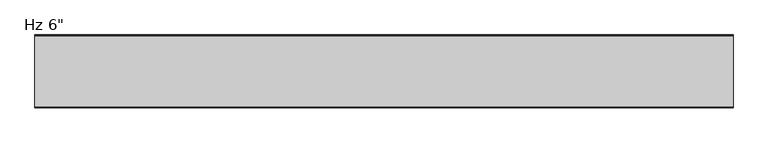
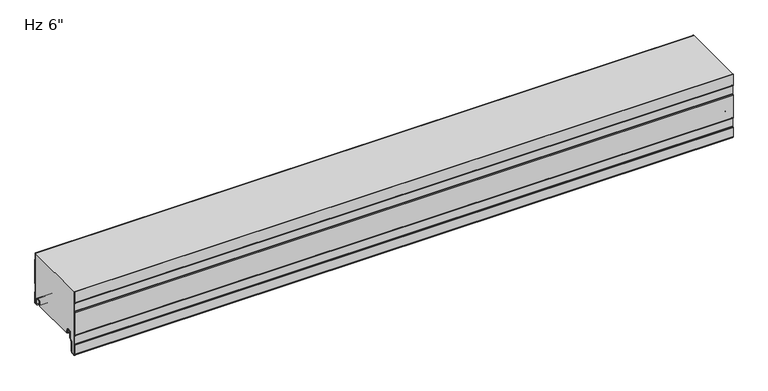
"""IFC4 building model written with IfcOpenShell, lengths in millimetres: plate geometry."""

from ifc_helpers import new_model, si_unit, point, frame, frame_2d, origin, place, context, project, spatial, polyline, circle_curve, trimmed, segment, composite_curve, outline, extrude, source, transform, mapped, element, save
from ifc_brep_helpers import plane_surface, cylinder_surface, revolved_surface, advanced_brep


def plate_5640bb00(model_context):
    return source(origin(), model_context, "Body", "SolidModel", [
        advanced_brep(
        [(-730.0, -17.0015159, 2.0313088), (-730.0, -18.0015191, 1.0313116), (-730.0, -19.0015105, 2.0313088), (-730.0, -19.0015105, 6.0315125), (-730.0, -18.0015159, 6.0315125), (-730.0, -18.0015159, 8.7237223), (-730.0, -14.7015202, 12.023718), (-730.0, -10.301529, 12.023718), (-730.0, -7.0015335, 8.7237225), (-730.0, -7.0015335, -1.6962564), (-730.0, -5.2315393, -3.4662506), (-730.0, -0.9999916, -3.4662506), (-730.0, -0.9999916, 21.034026), (-730.0, -2.2002307, 22.4196686), (-730.0, -2.2002307, 41.7948349), (-730.0, -1.0, 43.1804679), (-730.0, -1.0, 97.2338833), (-730.0, -2.2002307, 98.6195162), (-730.0, -2.2002307, 114.0), (-730.0, -1.2002307, 114.0), (-730.0, -1.2002307, 98.9923967), (-730.0, -0.3417885, 98.001349), (-730.0, 0.0, 97.0847321), (-730.0, 0.0, 43.329619), (-730.0, -0.3417885, 42.4130021), (-730.0, -1.2002307, 41.4219545), (-730.0, -1.2002307, 22.7925491), (-730.0, -0.3417885, 21.8015014), (-730.0, 0.0, 20.8847931), (-730.0, 8.4e-06, -3.0662545), (-730.0, -1.3999878, -4.4662506), (-730.0, -5.2315393, -4.4662506), (-730.0, -8.0015335, -1.6962564), (-730.0, -8.0015335, 8.7237225), (-730.0, -10.301529, 11.023718), (-730.0, -14.7015202, 11.023718), (-730.0, -17.0015159, 8.7237223), (730.0, -17.0015159, 2.0313088), (730.0, -17.0015159, 8.7237223), (730.0, -14.7015202, 11.023718), (730.0, -10.301529, 11.023718), (730.0, -8.0015335, 8.7237225), (730.0, -8.0015335, -1.6962564), (730.0, -5.2315393, -4.4662506), (730.0, -1.3999878, -4.4662506), (730.0, 8.4e-06, -3.0662545), (730.0, 8.4e-06, 20.8848845), (730.0, -0.3417885, 21.8015014), (730.0, -1.2002307, 22.7925491), (730.0, -1.2002307, 41.4219545), (730.0, -0.3417885, 42.4130021), (730.0, 0.0, 43.329619), (730.0, 0.0, 97.0847321), (730.0, -0.3417885, 98.001349), (730.0, -1.2002307, 98.9923967), (730.0, -1.2002307, 114.0), (730.0, -2.2002307, 114.0), (730.0, -2.2002307, 98.6195162), (730.0, -1.0, 97.2338833), (730.0, -1.0, 43.1804679), (730.0, -2.2002307, 41.7948349), (730.0, -2.2002307, 22.4196686), (730.0, -0.9999916, 21.034026), (730.0, -0.9999916, -3.4662506), (730.0, -5.2315393, -3.4662506), (730.0, -7.0015335, -1.6962564), (730.0, -7.0015335, 8.7237225), (730.0, -10.301529, 12.023718), (730.0, -14.7015202, 12.023718), (730.0, -18.0015159, 8.7237223), (730.0, -18.0015159, 6.0315125), (730.0, -19.0015105, 6.0315125), (730.0, -19.0015105, 2.0313088), (730.0, -18.0015192, 1.0313116)],
        [
            (0, 1, circle_curve(frame((-730.0, -18.0015132, 2.0313088), z_axis=(-1.0, 0.0, 0.0), x_axis=(0.0, 0.0, 1.0)), 0.9999973)),
            (1, 2, circle_curve(frame((-730.0, -18.0015133, 2.0313088), z_axis=(-1.0, 0.0, 0.0), x_axis=(0.0, 0.0, 1.0)), 0.9999972)),
            (2, 3),
            (3, 4),
            (4, 5),
            (5, 6, circle_curve(frame((-730.0, -14.7015202, 8.7237223), z_axis=(-1.0, 0.0, 0.0), x_axis=(0.0, 0.0, 1.0)), 3.2999957)),
            (6, 7),
            (7, 8, circle_curve(frame((-730.0, -10.301529, 8.7237225), z_axis=(-1.0, 0.0, 0.0), x_axis=(0.0, 0.0, 1.0)), 3.2999955)),
            (8, 9),
            (9, 10, circle_curve(frame((-730.0, -5.2315393, -1.6962564), z_axis=(1.0, 0.0, 0.0), x_axis=(0.0, 0.0, 1.0)), 1.7699942)),
            (10, 11),
            (11, 12),
            (12, 13),
            (13, 14),
            (14, 15),
            (15, 16),
            (16, 17),
            (17, 18),
            (18, 19),
            (19, 20),
            (20, 21),
            (21, 22, circle_curve(frame((-730.0, -1.3999972, 97.0847321), z_axis=(-1.0, 0.0, 0.0), x_axis=(0.0, 0.0, 1.0)), 1.3999972)),
            (22, 23),
            (23, 24, circle_curve(frame((-730.0, -1.3999972, 43.329619), z_axis=(-1.0, 0.0, 0.0), x_axis=(0.0, 0.0, 1.0)), 1.3999972)),
            (24, 25),
            (25, 26),
            (26, 27),
            (27, 28, circle_curve(frame((-730.0, -1.3999972, 20.8848845), z_axis=(-1.0, 0.0, 0.0), x_axis=(0.0, 0.0, 1.0)), 1.3999972)),
            (28, 29),
            (29, 30, circle_curve(frame((-730.0, -1.3999878, -3.0662545), z_axis=(-1.0, 0.0, 0.0), x_axis=(0.0, 0.0, 1.0)), 1.3999962)),
            (30, 31),
            (31, 32, circle_curve(frame((-730.0, -5.2315393, -1.6962564), z_axis=(-1.0, 0.0, 0.0), x_axis=(0.0, 0.0, 1.0)), 2.7699942)),
            (32, 33),
            (33, 34, circle_curve(frame((-730.0, -10.301529, 8.7237225), z_axis=(1.0, 0.0, 0.0), x_axis=(0.0, 0.0, 1.0)), 2.2999955)),
            (34, 35),
            (35, 36, circle_curve(frame((-730.0, -14.7015202, 8.7237223), z_axis=(1.0, 0.0, 0.0), x_axis=(0.0, 0.0, 1.0)), 2.2999957)),
            (36, 0),
            (37, 38),
            (38, 39, circle_curve(frame((730.0, -14.7015202, 8.7237223), z_axis=(-1.0, 0.0, 0.0), x_axis=(0.0, 0.0, 1.0)), 2.2999957)),
            (39, 40),
            (40, 41, circle_curve(frame((730.0, -10.301529, 8.7237225), z_axis=(-1.0, 0.0, 0.0), x_axis=(0.0, 0.0, 1.0)), 2.2999955)),
            (41, 42),
            (42, 43, circle_curve(frame((730.0, -5.2315393, -1.6962564), z_axis=(1.0, 0.0, 0.0), x_axis=(0.0, 0.0, 1.0)), 2.7699942)),
            (43, 44),
            (44, 45, circle_curve(frame((730.0, -1.3999878, -3.0662545), z_axis=(1.0, 0.0, 0.0), x_axis=(0.0, 0.0, 1.0)), 1.3999962)),
            (45, 46),
            (46, 47, circle_curve(frame((730.0, -1.3999972, 20.8848845), z_axis=(1.0, 0.0, 0.0), x_axis=(0.0, 0.0, 1.0)), 1.3999972)),
            (47, 48),
            (48, 49),
            (49, 50),
            (50, 51, circle_curve(frame((730.0, -1.3999972, 43.329619), z_axis=(1.0, 0.0, 0.0), x_axis=(0.0, 0.0, 1.0)), 1.3999972)),
            (51, 52),
            (52, 53, circle_curve(frame((730.0, -1.3999972, 97.0847321), z_axis=(1.0, 0.0, 0.0), x_axis=(0.0, 0.0, 1.0)), 1.3999972)),
            (53, 54),
            (54, 55),
            (55, 56),
            (56, 57),
            (57, 58),
            (58, 59),
            (59, 60),
            (60, 61),
            (61, 62),
            (62, 63),
            (63, 64),
            (64, 65, circle_curve(frame((730.0, -5.2315393, -1.6962564), z_axis=(-1.0, 0.0, 0.0), x_axis=(0.0, 0.0, 1.0)), 1.7699942)),
            (65, 66),
            (66, 67, circle_curve(frame((730.0, -10.301529, 8.7237225), z_axis=(1.0, 0.0, 0.0), x_axis=(0.0, 0.0, 1.0)), 3.2999955)),
            (67, 68),
            (68, 69, circle_curve(frame((730.0, -14.7015202, 8.7237223), z_axis=(1.0, 0.0, 0.0), x_axis=(0.0, 0.0, 1.0)), 3.2999957)),
            (69, 70),
            (70, 71),
            (71, 72),
            (72, 73, circle_curve(frame((730.0, -18.0015133, 2.0313088), z_axis=(1.0, 0.0, 0.0), x_axis=(0.0, 0.0, 1.0)), 0.9999972)),
            (73, 37, circle_curve(frame((730.0, -18.0015132, 2.0313088), z_axis=(1.0, 0.0, 0.0), x_axis=(0.0, 0.0, 1.0)), 0.9999973)),
            (18, 56),
            (55, 19),
            (36, 38),
            (37, 0),
            (35, 39),
            (34, 40),
            (33, 41),
            (32, 42),
            (31, 43),
            (30, 44),
            (29, 45),
            (28, 46),
            (27, 47),
            (26, 48),
            (25, 49),
            (24, 50),
            (23, 51),
            (22, 52),
            (21, 53),
            (20, 54),
            (17, 57),
            (16, 58),
            (15, 59),
            (14, 60),
            (13, 61),
            (12, 62),
            (11, 63),
            (10, 64),
            (9, 65),
            (8, 66),
            (7, 67),
            (6, 68),
            (5, 69),
            (4, 70),
            (3, 71),
            (2, 72),
            (1, 73),
        ],
        [
            plane_surface(frame((-730.0, 0.0, 381.0), z_axis=(-1.0, 0.0, 0.0), x_axis=(0.0, 1.0, 0.0))),
            plane_surface(frame((730.0, 0.0, 381.0), z_axis=(1.0, 0.0, 0.0), x_axis=(0.0, 1.0, 0.0))),
            plane_surface(frame((730.0, 10.0, 114.0), z_axis=(0.0, 0.0, 1.0), x_axis=(-1.0, 0.0, 0.0))),
            plane_surface(frame((-730.0, -17.0015159, 2.0313088), z_axis=(0.0, 1.0, 0.0), x_axis=(1.0, 0.0, 0.0))),
            revolved_surface(polyline([(730.0, -14.7015202, 11.023718), (-730.0, -14.7015202, 11.023718)]), (-730.0, -14.7015202, 8.7237223), (1.0, 0.0, 0.0)),
            plane_surface(frame((-730.0, -14.7015202, 11.023718), z_axis=(0.0, 0.0, -1.0), x_axis=(1.0, 0.0, 0.0))),
            revolved_surface(polyline([(730.0, -10.301529, 11.023717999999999), (-730.0, -10.301529, 11.023717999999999)]), (-730.0, -10.301529, 8.7237225), (1.0, 0.0, 0.0)),
            plane_surface(frame((-730.0, -8.0015335, 8.7237225), z_axis=(0.0, -1.0, 0.0), x_axis=(1.0, 0.0, 0.0))),
            cylinder_surface(frame((-730.0, -5.2315393, -1.6962564), z_axis=(-1.0, 0.0, 0.0), x_axis=(0.0, 0.0, 1.0)), 2.7699942),
            plane_surface(frame((-730.0, -5.2315393, -4.4662506), z_axis=(0.0, 0.0, -1.0), x_axis=(1.0, 0.0, 0.0))),
            cylinder_surface(frame((-730.0, -1.3999878, -3.0662545), z_axis=(-1.0, 0.0, 0.0), x_axis=(0.0, 0.0, 1.0)), 1.3999962),
            plane_surface(frame((-730.0, 8.4e-06, -3.0662545), z_axis=(0.0, 1.0, 0.0), x_axis=(1.0, 0.0, 0.0))),
            cylinder_surface(frame((-730.0, -1.3999972, 20.8848845), z_axis=(-1.0, 0.0, 0.0), x_axis=(0.0, 0.0, 1.0)), 1.3999972),
            plane_surface(frame((-730.0, -0.3417885, 21.8015014), z_axis=(0.0, 0.755864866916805, 0.6547276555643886), x_axis=(1.0, 0.0, 0.0))),
            plane_surface(frame((-730.0, -1.2002307, 32.1072518), z_axis=(0.0, 1.0, 0.0), x_axis=(1.0, 0.0, 0.0))),
            plane_surface(frame((-730.0, -1.2002307, 41.4219545), z_axis=(0.0, 0.755864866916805, -0.6547276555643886), x_axis=(1.0, 0.0, 0.0))),
            cylinder_surface(frame((-730.0, -1.3999972, 43.329619), z_axis=(-1.0, 0.0, 0.0), x_axis=(0.0, 0.0, 1.0)), 1.3999972),
            plane_surface(frame((-730.0, 0.0, 43.329619), z_axis=(0.0, 1.0, 0.0), x_axis=(1.0, 0.0, 0.0))),
            cylinder_surface(frame((-730.0, -1.3999972, 97.0847321), z_axis=(-1.0, 0.0, 0.0), x_axis=(0.0, 0.0, 1.0)), 1.3999972),
            plane_surface(frame((-730.0, -0.3417885, 98.001349), z_axis=(0.0, 0.755864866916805, 0.6547276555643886), x_axis=(1.0, 0.0, 0.0))),
            plane_surface(frame((-730.0, -1.2002307, 108.3070994), z_axis=(0.0, 1.0, 0.0), x_axis=(1.0, 0.0, 0.0))),
            plane_surface(frame((-730.0, -2.2002307, 117.9946825), z_axis=(0.0, -1.0, 0.0), x_axis=(1.0, 0.0, 0.0))),
            plane_surface(frame((-730.0, -2.2002307, 98.6195162), z_axis=(0.0, -0.755864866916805, -0.6547276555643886), x_axis=(1.0, 0.0, 0.0))),
            plane_surface(frame((-730.0, -1.0, 97.2338833), z_axis=(0.0, -1.0, 0.0), x_axis=(1.0, 0.0, 0.0))),
            plane_surface(frame((-730.0, -1.0, 43.1804679), z_axis=(0.0, -0.755864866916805, 0.6547276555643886), x_axis=(1.0, 0.0, 0.0))),
            plane_surface(frame((-730.0, -2.2002307, 41.7948349), z_axis=(0.0, -1.0, 0.0), x_axis=(1.0, 0.0, 0.0))),
            plane_surface(frame((-730.0, -2.2002307, 22.4196686), z_axis=(0.0, -0.755864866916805, -0.6547276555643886), x_axis=(1.0, 0.0, 0.0))),
            plane_surface(frame((-730.0, -0.9999916, 21.034026), z_axis=(0.0, -1.0, 0.0), x_axis=(1.0, 0.0, 0.0))),
            plane_surface(frame((-730.0, -0.9999916, -3.4662506), z_axis=(0.0, 0.0, 1.0), x_axis=(1.0, 0.0, 0.0))),
            revolved_surface(polyline([(730.0, -5.2315393, 0.07373779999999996), (-730.0, -5.2315393, 0.07373779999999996)]), (-730.0, -5.2315393, -1.6962564), (1.0, 0.0, 0.0)),
            plane_surface(frame((-730.0, -7.0015335, -1.6962564), z_axis=(0.0, 1.0, 0.0), x_axis=(1.0, 0.0, 0.0))),
            cylinder_surface(frame((-730.0, -10.301529, 8.7237225), z_axis=(-1.0, 0.0, 0.0), x_axis=(0.0, 0.0, 1.0)), 3.2999955),
            plane_surface(frame((-730.0, -10.301529, 12.023718), z_axis=(0.0, 0.0, 1.0), x_axis=(1.0, 0.0, 0.0))),
            cylinder_surface(frame((-730.0, -14.7015202, 8.7237223), z_axis=(-1.0, 0.0, 0.0), x_axis=(0.0, 0.0, 1.0)), 3.2999957),
            plane_surface(frame((-730.0, -18.0015159, 8.7237223), z_axis=(0.0, -1.0, 0.0), x_axis=(1.0, 0.0, 0.0))),
            plane_surface(frame((-730.0, -18.0015159, 6.0315125), z_axis=(0.0, 0.0, 1.0), x_axis=(1.0, 0.0, 0.0))),
            plane_surface(frame((-730.0, -19.0015105, 6.0315125), z_axis=(0.0, -1.0, 0.0), x_axis=(1.0, 0.0, 0.0))),
            cylinder_surface(frame((-730.0, -18.0015133, 2.0313088), z_axis=(-1.0, 0.0, 0.0), x_axis=(0.0, 0.0, 1.0)), 0.9999972),
            cylinder_surface(frame((-730.0, -18.0015132, 2.0313088), z_axis=(-1.0, 0.0, 0.0), x_axis=(0.0, 0.0, 1.0)), 0.9999973),
        ],
        [
            (0, [[1, 2, 3, 4, 5, 6, 7, 8, 9, 10, 11, 12, 13, 14, 15, 16, 17, 18, 19, 20, 21, 22, 23, 24, 25, 26, 27, 28, 29, 30, 31, 32, 33, 34, 35, 36, 37]]),
            (1, [[38, 39, 40, 41, 42, 43, 44, 45, 46, 47, 48, 49, 50, 51, 52, 53, 54, 55, 56, 57, 58, 59, 60, 61, 62, 63, 64, 65, 66, 67, 68, 69, 70, 71, 72, 73, 74]]),
            (2, [[75, -56, 76, -19]]),
            (3, [[77, -38, 78, -37]]),
            (4, [[79, -39, -77, -36]]),
            (5, [[80, -40, -79, -35]]),
            (6, [[81, -41, -80, -34]]),
            (7, [[82, -42, -81, -33]]),
            (8, [[83, -43, -82, -32]]),
            (9, [[84, -44, -83, -31]]),
            (10, [[85, -45, -84, -30]]),
            (11, [[86, -46, -85, -29]]),
            (12, [[87, -47, -86, -28]]),
            (13, [[88, -48, -87, -27]]),
            (14, [[89, -49, -88, -26]]),
            (15, [[90, -50, -89, -25]]),
            (16, [[91, -51, -90, -24]]),
            (17, [[92, -52, -91, -23]]),
            (18, [[93, -53, -92, -22]]),
            (19, [[94, -54, -93, -21]]),
            (20, [[-20, -76, -55, -94]]),
            (21, [[-57, -75, -18, 95]]),
            (22, [[96, -58, -95, -17]]),
            (23, [[97, -59, -96, -16]]),
            (24, [[98, -60, -97, -15]]),
            (25, [[99, -61, -98, -14]]),
            (26, [[100, -62, -99, -13]]),
            (27, [[101, -63, -100, -12]]),
            (28, [[102, -64, -101, -11]]),
            (29, [[103, -65, -102, -10]]),
            (30, [[104, -66, -103, -9]]),
            (31, [[105, -67, -104, -8]]),
            (32, [[106, -68, -105, -7]]),
            (33, [[107, -69, -106, -6]]),
            (34, [[108, -70, -107, -5]]),
            (35, [[109, -71, -108, -4]]),
            (36, [[110, -72, -109, -3]]),
            (37, [[111, -73, -110, -2]]),
            (38, [[-78, -74, -111, -1]]),
        ],
    ),
        extrude(outline(composite_curve([segment(trimmed(circle_curve(frame_2d((-150.9998717, -10.6415934)), 1.3998661), [point((-152.3997378, -10.6415934))], [point((-151.9324955, -9.5976403))], False, "CARTESIAN"), True, "CONTINUOUS"), segment(polyline([(-151.9324955, -9.5976403), (-151.1997693, -8.8649141), (-151.1997693, 10.0260713), (-151.9327349, 10.7590369)]), True, "CONTINUOUS"), segment(trimmed(circle_curve(frame_2d((-151.0000237, 11.8030877)), 1.3999972), [point((-151.9327349, 10.7590369))], [point((-152.4, 11.810741))], False, "CARTESIAN"), True, "CONTINUOUS"), segment(polyline([(-152.4, 11.810741), (-152.4, 65.5582542)]), True, "CONTINUOUS"), segment(trimmed(circle_curve(frame_2d((-151.0000028, 65.5582542)), 1.3999972), [point((-152.4, 65.5582542))], [point((-151.932714, 66.602305))], False, "CARTESIAN"), True, "CONTINUOUS"), segment(polyline([(-151.932714, 66.602305), (-151.1997693, 67.3352497), (-151.1997693, 86.2259189), (-151.9327349, 86.9588845)]), True, "CONTINUOUS"), segment(trimmed(circle_curve(frame_2d((-151.0000237, 88.0029353)), 1.3999972), [point((-151.9327349, 86.9588845))], [point((-152.4, 88.0105886))], False, "CARTESIAN"), True, "CONTINUOUS"), segment(polyline([(-152.4, 88.0105886), (-152.4, 114.0), (-151.4, 114.0), (-151.4, 87.8405213), (-150.1997693, 86.6402905), (-150.1997693, 66.920878), (-151.4, 65.7206473), (-151.4, 11.6405156), (-150.1997693, 10.4402849), (-150.1997693, -9.2791277), (-151.3997378, -10.4790962), (-151.3997378, -32.4521176)]), True, "CONTINUOUS"), segment(trimmed(circle_curve(frame_2d((-148.8294985, -32.4521176)), 2.5702393), [point((-151.3997378, -32.4521176))], [point((-148.6054129, -35.0125699))], True, "CARTESIAN"), True, "CONTINUOUS"), segment(polyline([(-148.6054129, -35.0125699), (-143.623592, -34.5765709)]), True, "CONTINUOUS"), segment(trimmed(circle_curve(frame_2d((-144.1049826, -31.9198392)), 2.6999926), [point((-143.623592, -34.5765709))], [point((-141.40499, -31.9198392))], True, "CARTESIAN"), True, "CONTINUOUS"), segment(polyline([(-141.40499, -31.9198392), (-141.40499, -9.8247096), (-135.9029189, -4.3226385)]), True, "CONTINUOUS"), segment(trimmed(circle_curve(frame_2d((-137.1049966, -3.1205608)), 1.6999946), [point((-135.9029189, -4.3226385))], [point((-135.405002, -3.1205608))], True, "CARTESIAN"), True, "CONTINUOUS"), segment(polyline([(-135.405002, -3.1205608), (-135.405002, 8.6903283)]), True, "CONTINUOUS"), segment(trimmed(circle_curve(frame_2d((-132.0550067, 8.6903283)), 3.3499953), [point((-135.405002, 8.6903283))], [point((-132.0550067, 12.0403236))], False, "CARTESIAN"), True, "CONTINUOUS"), segment(polyline([(-132.0550067, 12.0403236), (-127.6550155, 12.0403236)]), True, "CONTINUOUS"), segment(trimmed(circle_curve(frame_2d((-127.6550155, 8.6903283)), 3.3499953), [point((-127.6550155, 12.0403236))], [point((-124.3050202, 8.6903283))], False, "CARTESIAN"), True, "CONTINUOUS"), segment(polyline([(-124.3050202, 8.6903283), (-124.3050202, 5.9912173), (-122.9065413, 5.9912173), (-122.9065413, 2.2328239)]), True, "CONTINUOUS"), segment(trimmed(circle_curve(frame_2d((-124.106538, 2.2313092)), 1.1999976), [point((-122.9065413, 2.2328239))], [point((-124.0760161, 1.0316999))], False, "CARTESIAN"), True, "CONTINUOUS"), segment(trimmed(circle_curve(frame_2d((-124.106538, 2.2313092)), 1.1999976), [point((-124.0760161, 1.0316999))], [point((-125.3050202, 2.1710221))], False, "CARTESIAN"), True, "CONTINUOUS"), segment(polyline([(-125.3050202, 2.1710221), (-125.3050202, 8.6903283)]), True, "CONTINUOUS"), segment(trimmed(circle_curve(frame_2d((-127.6550155, 8.6903283)), 2.3499953), [point((-125.3050202, 8.6903283))], [point((-127.6550155, 11.0403236))], True, "CARTESIAN"), True, "CONTINUOUS"), segment(polyline([(-127.6550155, 11.0403236), (-132.0550067, 11.0403236)]), True, "CONTINUOUS"), segment(trimmed(circle_curve(frame_2d((-132.0550067, 8.6903283)), 2.3499953), [point((-132.0550067, 11.0403236))], [point((-134.405002, 8.6903283))], True, "CARTESIAN"), True, "CONTINUOUS"), segment(polyline([(-134.405002, 8.6903283), (-134.405002, -3.1205608)]), True, "CONTINUOUS"), segment(trimmed(circle_curve(frame_2d((-137.1049966, -3.1205608)), 2.6999946), [point((-134.405002, -3.1205608))], [point((-135.1958121, -5.0297453))], False, "CARTESIAN"), True, "CONTINUOUS"), segment(polyline([(-135.1958121, -5.0297453), (-140.0242296, -9.8581627)]), True, "CONTINUOUS"), segment(trimmed(circle_curve(frame_2d((-139.1049926, -10.7773997)), 1.2999974), [point((-140.0242296, -9.8581627))], [point((-140.40499, -10.7773997))], True, "CARTESIAN"), True, "CONTINUOUS"), segment(polyline([(-140.40499, -10.7773997), (-140.40499, -31.9198392)]), True, "CONTINUOUS"), segment(trimmed(circle_curve(frame_2d((-144.1049826, -31.9198392)), 3.6999926), [point((-140.40499, -31.9198392))], [point((-143.4941815, -35.5690675))], False, "CARTESIAN"), True, "CONTINUOUS"), segment(polyline([(-143.4941815, -35.5690675), (-148.5182281, -36.008762)]), True, "CONTINUOUS"), segment(trimmed(circle_curve(frame_2d((-148.8294985, -32.4521176)), 3.5702393), [point((-148.5182281, -36.008762))], [point((-152.3997378, -32.4521176))], False, "CARTESIAN"), True, "CONTINUOUS"), segment(polyline([(-152.3997378, -32.4521176), (-152.3997378, -10.6415934)]), True, "CONTINUOUS")], self_intersect=False)), frame((-730.0, 0.0, 0.0), z_axis=(1.0, 0.0, 0.0), x_axis=(0.0, 1.0, 0.0)), (0.0, 0.0, 1.0), 1460.0),
        extrude(outline(composite_curve([segment(trimmed(circle_curve(frame_2d((-124.106538, 2.2313092)), 1.1999976), [point((-124.0760161, 1.0316999))], [point((-122.9065413, 2.2328239))], True, "CARTESIAN"), True, "CONTINUOUS"), segment(polyline([(-122.9065413, 2.2328239), (-122.9065413, 5.9912173), (-124.3050202, 5.9912173), (-124.3050202, 8.6903283)]), True, "CONTINUOUS"), segment(trimmed(circle_curve(frame_2d((-127.6550155, 8.6903283)), 3.3499953), [point((-124.3050202, 8.6903283))], [point((-127.6550155, 12.0403236))], True, "CARTESIAN"), True, "CONTINUOUS"), segment(polyline([(-127.6550155, 12.0403236), (-132.0550067, 12.0403236)]), True, "CONTINUOUS"), segment(trimmed(circle_curve(frame_2d((-132.0550067, 8.6903283)), 3.3499953), [point((-132.0550067, 12.0403236))], [point((-135.405002, 8.6903283))], True, "CARTESIAN"), True, "CONTINUOUS"), segment(polyline([(-135.405002, 8.6903283), (-135.405002, -3.1205608)]), True, "CONTINUOUS"), segment(trimmed(circle_curve(frame_2d((-137.1049966, -3.1205608)), 1.6999946), [point((-135.405002, -3.1205608))], [point((-135.9029189, -4.3226385))], False, "CARTESIAN"), True, "CONTINUOUS"), segment(polyline([(-135.9029189, -4.3226385), (-141.40499, -9.8247096), (-141.40499, -31.9198392)]), True, "CONTINUOUS"), segment(trimmed(circle_curve(frame_2d((-144.1049826, -31.9198392)), 2.6999926), [point((-141.40499, -31.9198392))], [point((-143.623592, -34.5765709))], False, "CARTESIAN"), True, "CONTINUOUS"), segment(polyline([(-143.623592, -34.5765709), (-148.6054129, -35.0125699)]), True, "CONTINUOUS"), segment(trimmed(circle_curve(frame_2d((-148.8294985, -32.4521176)), 2.5702393), [point((-148.6054129, -35.0125699))], [point((-151.3997378, -32.4521176))], False, "CARTESIAN"), True, "CONTINUOUS"), segment(polyline([(-151.3997378, -32.4521176), (-151.3997378, -10.4790962), (-150.1997693, -9.2791277), (-150.1997693, 10.4402849), (-151.4, 11.6405156), (-151.4, 65.7206473), (-150.1997693, 66.920878), (-150.1997693, 86.6402905), (-151.4, 87.8405213), (-151.4, 114.0), (-2.2002307, 114.0), (-2.2002307, 98.6195163), (-1.0, 97.2338833), (-1.0, 43.1804679), (-2.2002307, 41.794835), (-2.2002307, 22.4196687), (-0.9999916, 21.034026), (-0.9999916, -3.4662506), (-5.2315389, -3.4662506)]), True, "CONTINUOUS"), segment(trimmed(circle_curve(frame_2d((-5.2315389, -1.6962564)), 1.7699942), [point((-5.2315389, -3.4662506))], [point((-7.0015331, -1.6962564))], False, "CARTESIAN"), True, "CONTINUOUS"), segment(polyline([(-7.0015331, -1.6962564), (-7.0015331, 8.7237222)]), True, "CONTINUOUS"), segment(trimmed(circle_curve(frame_2d((-10.301529, 8.7237222)), 3.2999959), [point((-7.0015331, 8.7237222))], [point((-10.301529, 12.023718))], True, "CARTESIAN"), True, "CONTINUOUS"), segment(polyline([(-10.301529, 12.023718), (-14.7015202, 12.023718)]), True, "CONTINUOUS"), segment(trimmed(circle_curve(frame_2d((-14.7015202, 8.7237223)), 3.2999957), [point((-14.7015202, 12.023718))], [point((-18.0015159, 8.7237223))], True, "CARTESIAN"), True, "CONTINUOUS"), segment(polyline([(-18.0015159, 8.7237223), (-18.0015159, 6.0315125), (-19.0015105, 6.0315125), (-19.0015105, 2.0313089)]), True, "CONTINUOUS"), segment(trimmed(circle_curve(frame_2d((-18.0015133, 2.0313089)), 0.9999972), [point((-19.0015105, 2.0313089))], [point((-18.0015192, 1.0313117))], True, "CARTESIAN"), True, "CONTINUOUS"), segment(polyline([(-18.0015192, 1.0313117), (-19.0328308, 0.0), (-123.0443162, 0.0), (-124.0760161, 1.0316999)]), True, "CONTINUOUS")], self_intersect=False)), frame((-730.0, 0.0, 0.0), z_axis=(1.0, 0.0, 0.0), x_axis=(0.0, 1.0, 0.0)), (0.0, 0.0, 1.0), 1460.0),
    ])


if __name__ == "__main__":
    model = new_model("IFC4")
    model_context = context("Model", 3, world=origin())
    ifc_project = project(units=[si_unit("LENGTHUNIT", "METRE", prefix="MILLI")], contexts=[model_context])
    site = spatial("IfcSite", under=ifc_project)
    building = spatial("IfcBuilding", under=site)
    placement = place(None, origin())
    plate_shape = plate_5640bb00(model_context)
    element("IfcPlate", 1, ObjectType="KIP-30-Karrier-KP-R19-CP-Hz-SL_SL : Hz 6\"", at=placement, inside=building, context=model_context, shape_type="MappedRepresentation", body=[
        mapped(plate_shape, transform((0.0, 0.0, 0.0), x_axis=(1.0, 0.0, 0.0), y_axis=(0.0, 1.0, 0.0), z_axis=(0.0, 0.0, 1.0))),
    ])
    save(model, "model.ifc")
